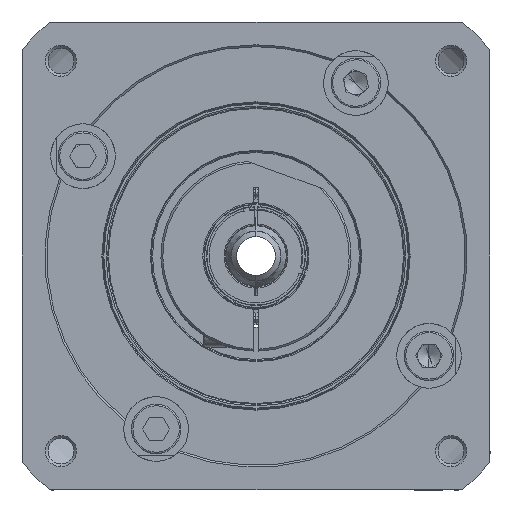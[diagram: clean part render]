
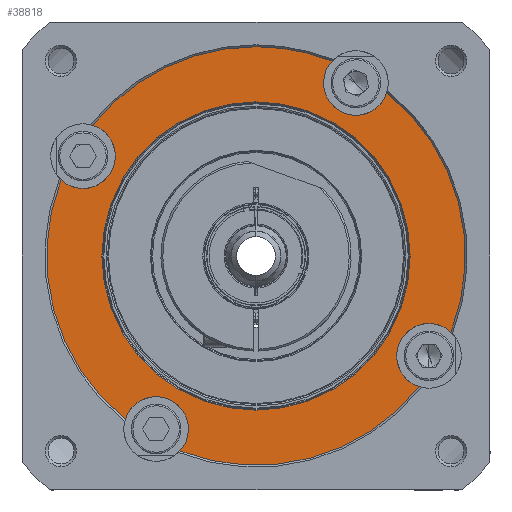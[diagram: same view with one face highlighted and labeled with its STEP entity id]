
A CAD part, left-side view. The second image highlights one B-rep face of the part: STEP entity #38818.
In plain terms, the highlighted planar face has unit normal (-1, 0, 0).
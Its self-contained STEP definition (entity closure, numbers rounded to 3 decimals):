
#528 = CIRCLE ( 'NONE', #19201, 8.5 ) ;
#1194 = EDGE_CURVE ( 'NONE', #7771, #42016, #58343, .T. ) ;
#1381 = CARTESIAN_POINT ( 'NONE',  ( -169.5, 0., 0. ) ) ;
#1452 = CARTESIAN_POINT ( 'NONE',  ( -169.5, 0., 0. ) ) ;
#2145 = CIRCLE ( 'NONE', #53356, 55. ) ;
#2182 = DIRECTION ( 'NONE',  ( -1., 0., 0. ) ) ;
#2704 = CIRCLE ( 'NONE', #41064, 55. ) ;
#3517 = CARTESIAN_POINT ( 'NONE',  ( -169.5, -45.466, -26.25 ) ) ;
#4066 = DIRECTION ( 'NONE',  ( 0., 0., 1. ) ) ;
#4140 = DIRECTION ( 'NONE',  ( 0., 0., 1. ) ) ;
#5019 = AXIS2_PLACEMENT_3D ( 'NONE', #15727, #2182, #49687 ) ;
#5165 = VERTEX_POINT ( 'NONE', #14037 ) ;
#6045 = DIRECTION ( 'NONE',  ( -1., 0., 0. ) ) ;
#6334 = ORIENTED_EDGE ( 'NONE', *, *, #29693, .T. ) ;
#6527 = CARTESIAN_POINT ( 'NONE',  ( -169.5, -26.25, 36.966 ) ) ;
#7162 = ORIENTED_EDGE ( 'NONE', *, *, #50143, .T. ) ;
#7164 = AXIS2_PLACEMENT_3D ( 'NONE', #55147, #51129, #8864 ) ;
#7536 = ORIENTED_EDGE ( 'NONE', *, *, #21944, .F. ) ;
#7611 = EDGE_CURVE ( 'NONE', #16730, #5165, #2704, .T. ) ;
#7771 = VERTEX_POINT ( 'NONE', #25868 ) ;
#8514 = AXIS2_PLACEMENT_3D ( 'NONE', #17422, #36208, #35570 ) ;
#8864 = DIRECTION ( 'NONE',  ( 0., 0., 1. ) ) ;
#9156 = CARTESIAN_POINT ( 'NONE',  ( -169.5, -26.25, 45.466 ) ) ;
#9168 = VERTEX_POINT ( 'NONE', #6527 ) ;
#10481 = CIRCLE ( 'NONE', #42937, 40.5 ) ;
#10920 = DIRECTION ( 'NONE',  ( 0., 0., 1. ) ) ;
#11228 = DIRECTION ( 'NONE',  ( 0., 0., 1. ) ) ;
#11260 = EDGE_CURVE ( 'NONE', #7771, #37895, #18369, .T. ) ;
#11530 = AXIS2_PLACEMENT_3D ( 'NONE', #37081, #51012, #4140 ) ;
#12442 = DIRECTION ( 'NONE',  ( 0., 0., 1. ) ) ;
#13053 = CIRCLE ( 'NONE', #55395, 8.5 ) ;
#14037 = CARTESIAN_POINT ( 'NONE',  ( -169.5, -42.941, -34.366 ) ) ;
#15727 = CARTESIAN_POINT ( 'NONE',  ( -169.5, -45.466, -26.25 ) ) ;
#16730 = VERTEX_POINT ( 'NONE', #30015 ) ;
#16767 = CIRCLE ( 'NONE', #23687, 8.5 ) ;
#17397 = ORIENTED_EDGE ( 'NONE', *, *, #7611, .T. ) ;
#17422 = CARTESIAN_POINT ( 'NONE',  ( -169.5, 0., 0. ) ) ;
#17700 = EDGE_CURVE ( 'NONE', #40008, #38110, #20360, .T. ) ;
#17867 = FACE_BOUND ( 'NONE', #51991, .T. ) ;
#18145 = DIRECTION ( 'NONE',  ( 0., 0., 1. ) ) ;
#18369 = CIRCLE ( 'NONE', #8514, 55. ) ;
#18897 = CARTESIAN_POINT ( 'NONE',  ( -169.5, -51.233, -20.005 ) ) ;
#19201 = AXIS2_PLACEMENT_3D ( 'NONE', #46632, #28072, #46037 ) ;
#19214 = CARTESIAN_POINT ( 'NONE',  ( -169.5, -34.366, 42.941 ) ) ;
#19795 = EDGE_CURVE ( 'NONE', #39814, #37895, #16767, .T. ) ;
#19889 = DIRECTION ( 'NONE',  ( 1., 0., 0. ) ) ;
#20360 = CIRCLE ( 'NONE', #11530, 40.5 ) ;
#20501 = CARTESIAN_POINT ( 'NONE',  ( -169.5, 0., 0. ) ) ;
#20798 = DIRECTION ( 'NONE',  ( -1., 0., 0. ) ) ;
#21064 = EDGE_CURVE ( 'NONE', #33208, #58729, #58214, .T. ) ;
#21091 = CARTESIAN_POINT ( 'NONE',  ( -169.5, 0., 0. ) ) ;
#21852 = AXIS2_PLACEMENT_3D ( 'NONE', #50561, #50859, #18145 ) ;
#21944 = EDGE_CURVE ( 'NONE', #42016, #47249, #13053, .T. ) ;
#22818 = VERTEX_POINT ( 'NONE', #19214 ) ;
#23687 = AXIS2_PLACEMENT_3D ( 'NONE', #32418, #46963, #37072 ) ;
#24865 = DIRECTION ( 'NONE',  ( 0., 0., 1. ) ) ;
#25055 = EDGE_CURVE ( 'NONE', #16730, #39814, #528, .T. ) ;
#25868 = CARTESIAN_POINT ( 'NONE',  ( -169.5, 51.233, 20.005 ) ) ;
#26062 = EDGE_CURVE ( 'NONE', #58729, #5165, #60801, .T. ) ;
#26924 = ORIENTED_EDGE ( 'NONE', *, *, #25055, .F. ) ;
#26932 = CIRCLE ( 'NONE', #56568, 55. ) ;
#28072 = DIRECTION ( 'NONE',  ( -1., 0., 0. ) ) ;
#28298 = PLANE ( 'NONE',  #57330 ) ;
#28510 = ORIENTED_EDGE ( 'NONE', *, *, #21064, .F. ) ;
#29693 = EDGE_CURVE ( 'NONE', #44296, #47249, #2145, .T. ) ;
#30015 = CARTESIAN_POINT ( 'NONE',  ( -169.5, 20.005, -51.233 ) ) ;
#30238 = ORIENTED_EDGE ( 'NONE', *, *, #11260, .T. ) ;
#30582 = ORIENTED_EDGE ( 'NONE', *, *, #19795, .F. ) ;
#31037 = ORIENTED_EDGE ( 'NONE', *, *, #1194, .F. ) ;
#31070 = EDGE_CURVE ( 'NONE', #33208, #22818, #32669, .T. ) ;
#31405 = CARTESIAN_POINT ( 'NONE',  ( -169.5, 0., 55. ) ) ;
#32049 = DIRECTION ( 'NONE',  ( -1., 0., 0. ) ) ;
#32235 = CARTESIAN_POINT ( 'NONE',  ( -169.5, 26.25, -36.966 ) ) ;
#32418 = CARTESIAN_POINT ( 'NONE',  ( -169.5, 26.25, -45.466 ) ) ;
#32669 = CIRCLE ( 'NONE', #56403, 55. ) ;
#33208 = VERTEX_POINT ( 'NONE', #18897 ) ;
#33562 = VERTEX_POINT ( 'NONE', #60684 ) ;
#34002 = DIRECTION ( 'NONE',  ( -1., 0., 0. ) ) ;
#34356 = CARTESIAN_POINT ( 'NONE',  ( -169.5, 0., -40.5 ) ) ;
#34401 = CARTESIAN_POINT ( 'NONE',  ( -169.5, 42.941, 34.366 ) ) ;
#35242 = DIRECTION ( 'NONE',  ( 0., 0., 1. ) ) ;
#35570 = DIRECTION ( 'NONE',  ( 0., 0., 1. ) ) ;
#35678 = CARTESIAN_POINT ( 'NONE',  ( -169.5, -45.466, -17.75 ) ) ;
#36208 = DIRECTION ( 'NONE',  ( -1., 0., 0. ) ) ;
#36548 = CARTESIAN_POINT ( 'NONE',  ( -169.5, 45.466, 17.75 ) ) ;
#37072 = DIRECTION ( 'NONE',  ( 0., 0., 1. ) ) ;
#37081 = CARTESIAN_POINT ( 'NONE',  ( -169.5, 0., 0. ) ) ;
#37895 = VERTEX_POINT ( 'NONE', #51824 ) ;
#38110 = VERTEX_POINT ( 'NONE', #59459 ) ;
#38428 = DIRECTION ( 'NONE',  ( -1., 0., 0. ) ) ;
#38673 = CIRCLE ( 'NONE', #50586, 8.5 ) ;
#38818 = ADVANCED_FACE ( 'NONE', ( #56147, #17867 ), #28298, .T. ) ;
#39287 = DIRECTION ( 'NONE',  ( 0., 0., 1. ) ) ;
#39543 = CARTESIAN_POINT ( 'NONE',  ( -169.5, 45.466, 26.25 ) ) ;
#39592 = DIRECTION ( 'NONE',  ( 0., 0., 1. ) ) ;
#39814 = VERTEX_POINT ( 'NONE', #32235 ) ;
#39853 = EDGE_CURVE ( 'NONE', #33562, #9168, #55463, .T. ) ;
#40008 = VERTEX_POINT ( 'NONE', #34356 ) ;
#40725 = CARTESIAN_POINT ( 'NONE',  ( -169.5, 0., 0. ) ) ;
#41064 = AXIS2_PLACEMENT_3D ( 'NONE', #1381, #58142, #11228 ) ;
#42016 = VERTEX_POINT ( 'NONE', #36548 ) ;
#42937 = AXIS2_PLACEMENT_3D ( 'NONE', #20501, #19889, #39287 ) ;
#44038 = ORIENTED_EDGE ( 'NONE', *, *, #17700, .T. ) ;
#44296 = VERTEX_POINT ( 'NONE', #31405 ) ;
#44971 = AXIS2_PLACEMENT_3D ( 'NONE', #3517, #45760, #12442 ) ;
#45428 = EDGE_CURVE ( 'NONE', #9168, #22818, #38673, .T. ) ;
#45673 = EDGE_LOOP ( 'NONE', ( #26924, #17397, #47466, #28510, #58868, #47109, #58954, #57888, #6334, #7536, #31037, #30238, #30582 ) ) ;
#45760 = DIRECTION ( 'NONE',  ( -1., 0., 0. ) ) ;
#45862 = EDGE_CURVE ( 'NONE', #33562, #44296, #26932, .T. ) ;
#46037 = DIRECTION ( 'NONE',  ( 0., 0., 1. ) ) ;
#46549 = DIRECTION ( 'NONE',  ( -1., 0., 0. ) ) ;
#46632 = CARTESIAN_POINT ( 'NONE',  ( -169.5, 26.25, -45.466 ) ) ;
#46963 = DIRECTION ( 'NONE',  ( -1., 0., 0. ) ) ;
#47109 = ORIENTED_EDGE ( 'NONE', *, *, #45428, .F. ) ;
#47249 = VERTEX_POINT ( 'NONE', #34401 ) ;
#47466 = ORIENTED_EDGE ( 'NONE', *, *, #26062, .F. ) ;
#49687 = DIRECTION ( 'NONE',  ( 0., 0., 1. ) ) ;
#50143 = EDGE_CURVE ( 'NONE', #38110, #40008, #10481, .T. ) ;
#50561 = CARTESIAN_POINT ( 'NONE',  ( -169.5, 45.466, 26.25 ) ) ;
#50586 = AXIS2_PLACEMENT_3D ( 'NONE', #9156, #6045, #35242 ) ;
#50859 = DIRECTION ( 'NONE',  ( -1., 0., 0. ) ) ;
#51012 = DIRECTION ( 'NONE',  ( 1., 0., 0. ) ) ;
#51129 = DIRECTION ( 'NONE',  ( -1., 0., 0. ) ) ;
#51824 = CARTESIAN_POINT ( 'NONE',  ( -169.5, 34.366, -42.941 ) ) ;
#51991 = EDGE_LOOP ( 'NONE', ( #7162, #44038 ) ) ;
#53356 = AXIS2_PLACEMENT_3D ( 'NONE', #21091, #20798, #39592 ) ;
#55147 = CARTESIAN_POINT ( 'NONE',  ( -169.5, -26.25, 45.466 ) ) ;
#55395 = AXIS2_PLACEMENT_3D ( 'NONE', #39543, #34002, #10920 ) ;
#55463 = CIRCLE ( 'NONE', #7164, 8.5 ) ;
#55833 = CARTESIAN_POINT ( 'NONE',  ( -169.5, 0., 0. ) ) ;
#56147 = FACE_OUTER_BOUND ( 'NONE', #45673, .T. ) ;
#56403 = AXIS2_PLACEMENT_3D ( 'NONE', #1452, #38428, #24865 ) ;
#56568 = AXIS2_PLACEMENT_3D ( 'NONE', #40725, #32049, #4066 ) ;
#57330 = AXIS2_PLACEMENT_3D ( 'NONE', #55833, #46549, #60460 ) ;
#57888 = ORIENTED_EDGE ( 'NONE', *, *, #45862, .T. ) ;
#58142 = DIRECTION ( 'NONE',  ( -1., 0., 0. ) ) ;
#58214 = CIRCLE ( 'NONE', #5019, 8.5 ) ;
#58343 = CIRCLE ( 'NONE', #21852, 8.5 ) ;
#58729 = VERTEX_POINT ( 'NONE', #35678 ) ;
#58868 = ORIENTED_EDGE ( 'NONE', *, *, #31070, .T. ) ;
#58954 = ORIENTED_EDGE ( 'NONE', *, *, #39853, .F. ) ;
#59459 = CARTESIAN_POINT ( 'NONE',  ( -169.5, 0., 40.5 ) ) ;
#60460 = DIRECTION ( 'NONE',  ( 0., 0., 1. ) ) ;
#60684 = CARTESIAN_POINT ( 'NONE',  ( -169.5, -20.005, 51.233 ) ) ;
#60801 = CIRCLE ( 'NONE', #44971, 8.5 ) ;
